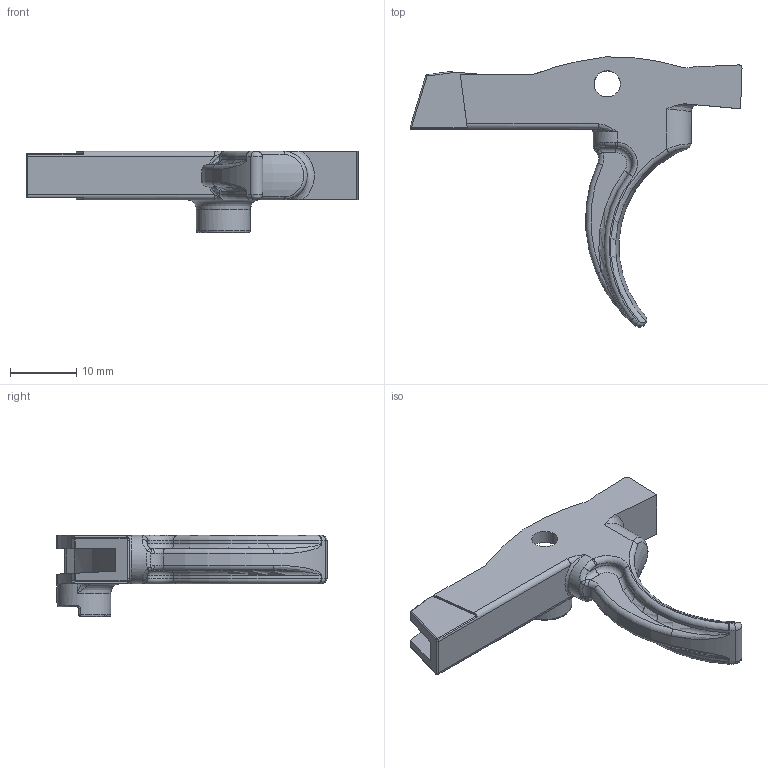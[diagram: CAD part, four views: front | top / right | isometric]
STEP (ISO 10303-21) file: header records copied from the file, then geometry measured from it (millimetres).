
FILE_DESCRIPTION(/* description */ (''),/* implementation_level */ '2;1');
FILE_NAME(/* name */ 'D:\~~GatCad\Ivan''s Printable Fire Control Group (AR15, FGC-9, etc)\STEP\Trigger V1.5.stp',/* time_stamp */ '2021-01-17T14:03:54-06:00',/* author */ ('johne'),/* organization */ (''),/* preprocessor_version */ 'ST-DEVELOPER v18',/* originating_system */ 'Autodesk Inventor 2020',/* authorisation */ '');
FILE_SCHEMA (('AUTOMOTIVE_DESIGN { 1 0 10303 214 3 1 1 }'));
Length unit declared in the file: millimetre
Products named in the file (1): Trigger V1.4
Bounding box: 50.28 x 40.92 x 12.32 mm (x, y, z)
Volume: 3289.7 mm3; surface area: 3084.3 mm2
Topology: 1 solids, 1 shells, 138 faces, 352 edges, 210 vertices
Faces by surface type: cylinder 47, plane 34, bspline 25, torus 24, sphere 8
Full cylindrical faces by diameter (mm): 3.962 x2, 4.166 x1, 8.179 x1
Entity records: 7454 total; most frequent: CARTESIAN_POINT 4141, DIRECTION 708, ORIENTED_EDGE 694, EDGE_CURVE 347, AXIS2_PLACEMENT_3D 293, VERTEX_POINT 210, CIRCLE 152, EDGE_LOOP 141
